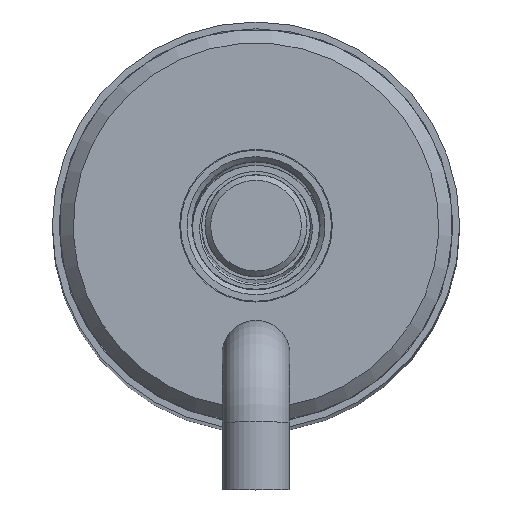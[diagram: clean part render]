
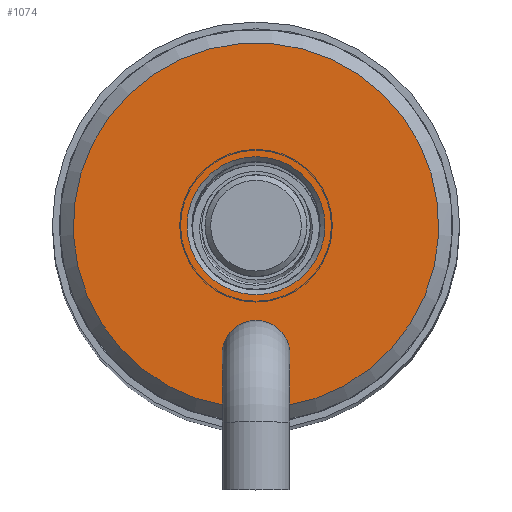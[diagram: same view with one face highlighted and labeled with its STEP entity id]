
A CAD part, top view. The second image highlights one B-rep face of the part: STEP entity #1074.
In plain terms, the highlighted planar face has unit normal (0, 0, 1).
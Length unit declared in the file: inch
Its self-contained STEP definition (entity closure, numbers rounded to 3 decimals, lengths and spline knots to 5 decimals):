
#78=FACE_BOUND('',#214,.T.);
#116=PLANE('',#1254);
#145=FACE_OUTER_BOUND('',#213,.T.);
#213=EDGE_LOOP('',(#719,#720,#721,#722,#723));
#214=EDGE_LOOP('',(#724));
#294=LINE('',#1700,#344);
#297=LINE('',#1710,#347);
#344=VECTOR('',#1401,0.3937);
#347=VECTOR('',#1406,0.3937);
#396=CIRCLE('',#1249,0.0625);
#398=CIRCLE('',#1251,0.0625);
#399=CIRCLE('',#1255,0.3365);
#400=CIRCLE('',#1256,0.127);
#448=VERTEX_POINT('',#1686);
#449=VERTEX_POINT('',#1688);
#452=VERTEX_POINT('',#1694);
#453=VERTEX_POINT('',#1699);
#456=VERTEX_POINT('',#1709);
#457=VERTEX_POINT('',#1712);
#550=EDGE_CURVE('',#449,#448,#396,.T.);
#554=EDGE_CURVE('',#448,#452,#398,.T.);
#555=EDGE_CURVE('',#453,#449,#294,.T.);
#559=EDGE_CURVE('',#452,#456,#297,.T.);
#560=EDGE_CURVE('',#453,#456,#399,.T.);
#561=EDGE_CURVE('',#457,#457,#400,.T.);
#719=ORIENTED_EDGE('',*,*,#550,.T.);
#720=ORIENTED_EDGE('',*,*,#554,.T.);
#721=ORIENTED_EDGE('',*,*,#559,.T.);
#722=ORIENTED_EDGE('',*,*,#560,.F.);
#723=ORIENTED_EDGE('',*,*,#555,.T.);
#724=ORIENTED_EDGE('',*,*,#561,.T.);
#1074=ADVANCED_FACE('',(#145,#78),#116,.T.);
#1249=AXIS2_PLACEMENT_3D('',#1689,#1389,#1390);
#1251=AXIS2_PLACEMENT_3D('',#1696,#1395,#1396);
#1254=AXIS2_PLACEMENT_3D('',#1708,#1404,#1405);
#1255=AXIS2_PLACEMENT_3D('',#1711,#1407,#1408);
#1256=AXIS2_PLACEMENT_3D('',#1713,#1409,#1410);
#1389=DIRECTION('center_axis',(0.,0.,
-1.));
#1390=DIRECTION('ref_axis',(1.,0.,0.));
#1395=DIRECTION('center_axis',(0.,0.,
-1.));
#1396=DIRECTION('ref_axis',(1.,0.,0.));
#1401=DIRECTION('',(0.,1.,0.));
#1404=DIRECTION('center_axis',(0.,0.,
1.));
#1405=DIRECTION('ref_axis',(1.,0.,0.));
#1406=DIRECTION('',(0.,-1.,0.));
#1407=DIRECTION('center_axis',(0.,0.,
-1.));
#1408=DIRECTION('ref_axis',(-1.,0.,0.));
#1409=DIRECTION('center_axis',(0.,0.,
-1.));
#1410=DIRECTION('ref_axis',(-1.,0.,0.));
#1686=CARTESIAN_POINT('',(-0.0625,-0.237,3.37));
#1688=CARTESIAN_POINT('',(-0.053,-0.27012,3.37));
#1689=CARTESIAN_POINT('Origin',(0.,-0.237,3.37));
#1694=CARTESIAN_POINT('',(0.053,-0.27012,3.37));
#1696=CARTESIAN_POINT('Origin',(0.,-0.237,3.37));
#1699=CARTESIAN_POINT('',(-0.053,-0.3323,3.37));
#1700=CARTESIAN_POINT('',(-0.053,0.04975,3.37));
#1708=CARTESIAN_POINT('Origin',(0.,0.3365,3.37));
#1709=CARTESIAN_POINT('',(0.053,-0.3323,3.37));
#1710=CARTESIAN_POINT('',(0.053,-0.01055,3.37));
#1711=CARTESIAN_POINT('Origin',(0.,0.,
3.37));
#1712=CARTESIAN_POINT('',(0.,-0.127,3.37));
#1713=CARTESIAN_POINT('Origin',(0.,0.,
3.37));
